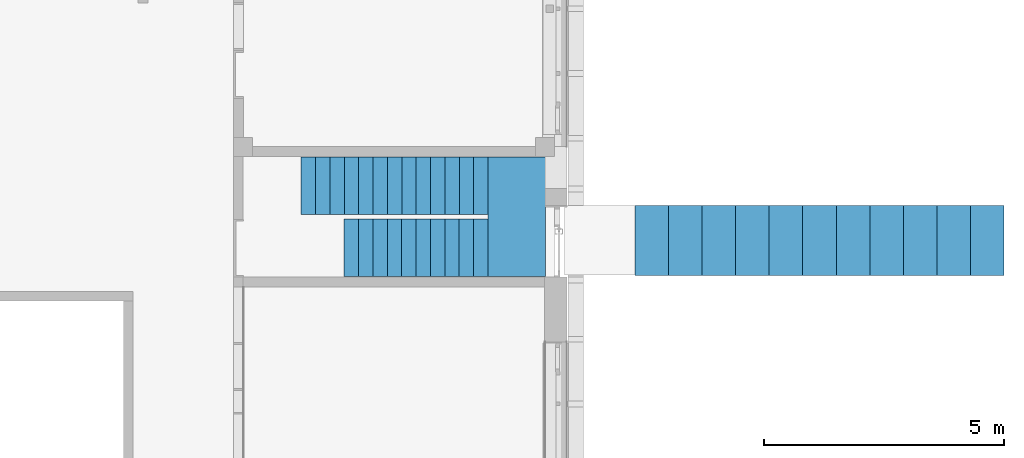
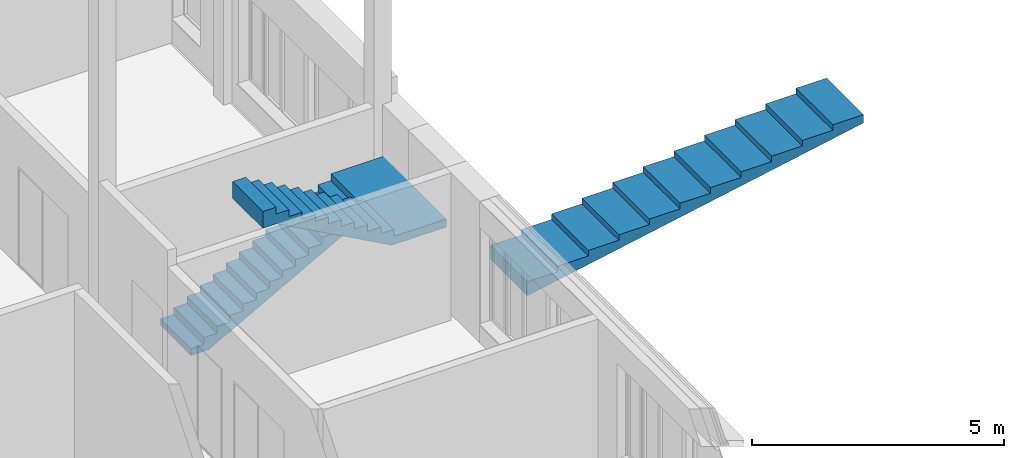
# One storey, part 47 of 89: 2 stairs.
"""IFC2X3 building model written with IfcOpenShell, lengths in millimetres."""

from ifc_helpers import new_model, entity, si_unit, converted_unit, derived_unit, money_unit, direction, frame, origin_with_axes, place, context, subcontext, project, spatial, faceted_brep, material, material_list, element, save


model = new_model("IFC2X3")

# Units and contexts
model_context = context("Model", 3, precision=0.01, world=origin_with_axes(), true_north=direction((0.0, 1.0)))
body_context = subcontext(model_context, "Body", "Model", "MODEL_VIEW")
ifc_project = project(units=[si_unit("LENGTHUNIT", "METRE", prefix="MILLI"), si_unit("AREAUNIT", "SQUARE_METRE"), si_unit("VOLUMEUNIT", "CUBIC_METRE"), converted_unit("PLANEANGLEUNIT", "DEGREE", entity("IfcPlaneAngleMeasure", 0.0174532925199), si_unit("PLANEANGLEUNIT", "RADIAN"), dimensions=[0, 0, 0, 0, 0, 0, 0]), si_unit("SOLIDANGLEUNIT", "STERADIAN"), money_unit("EUR"), converted_unit("TIMEUNIT", "Year", entity("IfcTimeMeasure", 31556926.0), si_unit("TIMEUNIT", "SECOND"), dimensions=[0, 0, 1, 0, 0, 0, 0]), si_unit("MASSUNIT", "GRAM", prefix="KILO"), si_unit("THERMODYNAMICTEMPERATUREUNIT", "DEGREE_CELSIUS"), si_unit("LUMINOUSINTENSITYUNIT", "LUMEN"), si_unit("ENERGYUNIT", "JOULE", prefix="MEGA"), derived_unit("THERMALCONDUCTANCEUNIT", [(si_unit("POWERUNIT", "WATT"), 1), (si_unit("LENGTHUNIT", "METRE"), -1), (si_unit("THERMODYNAMICTEMPERATUREUNIT", "KELVIN"), -1)]), derived_unit("SPECIFICHEATCAPACITYUNIT", [(si_unit("ENERGYUNIT", "JOULE"), 1), (si_unit("MASSUNIT", "GRAM", prefix="KILO"), -1), (si_unit("THERMODYNAMICTEMPERATUREUNIT", "KELVIN"), -1)]), derived_unit("MASSDENSITYUNIT", [(si_unit("MASSUNIT", "GRAM", prefix="KILO"), 1), (si_unit("VOLUMEUNIT", "CUBIC_METRE"), -1)])], contexts=[model_context])

# Site, building, storey
site_placement = place(None, origin_with_axes())
site = spatial("IfcSite", under=ifc_project, at=site_placement, Name="Puškini 31, Narva", CompositionType="ELEMENT")
building_placement = place(site_placement, origin_with_axes())
building = spatial("IfcBuilding", under=site, at=building_placement, Name="Narva Riigigümnaasium", CompositionType="ELEMENT")
storey_placement = place(building_placement, frame((0.0, 0.0, -3300.0), z_axis=(0.0, 0.0, 1.0), x_axis=(1.0, 0.0, 0.0)))
storey = spatial("IfcBuildingStorey", under=building, at=storey_placement, Name="1.korrus -3.3", CompositionType="ELEMENT", Elevation=-3300.0)

# Stairs
ifc_material_1 = material(Name="Betoon element")
ifc_material_list = material_list([ifc_material_1, ifc_material_1, ifc_material_1])
stair_1_placement = place(storey_placement, frame((48910.0000002, 222590.0, 0.0), z_axis=(0.0, 0.0, 1.0), x_axis=(1.0, 0.0, 0.0)))
element("IfcStair", 1, at=stair_1_placement, inside=storey, material=ifc_material_list, Name="G-TR-08", ShapeType="NOTDEFINED", context=body_context, shape_type="Brep", body=[
    faceted_brep([(3899.99998275, -5.17031306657e-07, 2110.0), (3899.99998275, 1200.0, 2110.0), (3899.99999992, 1200.0, 2145.0), (3899.99999992, 0.0, 2145.0), (4251.37133808, -5.17031306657e-07, 2110.0), (4251.37133808, 1200.0, 2110.0), (3899.99998275, 1200.0, 1916.74574635), (3799.99999992, 1200.0, 1861.74575579), (3699.99999993, 1200.0, 1806.74575579), (3599.99999993, 1200.0, 1751.74575579), (3499.99999993, 1200.0, 1696.74575579), (3399.99999993, 1200.0, 1641.74575579), (3299.99999993, 1200.0, 1586.74575579), (3199.99999994, 1200.0, 1531.74575579), (3099.99999994, 1200.0, 1476.74575579), (2999.99999994, 1200.0, 1421.74575579), (2899.99999994, 1200.0, 1366.74575579), (2799.99999994, 1200.0, 1311.74575579), (2699.99999995, 1200.0, 1256.74575579), (2599.99999995, 1200.0, 1201.74575579), (2499.99999995, 1200.0, 1146.74575579), (2399.99999995, 1200.0, 1091.74575579), (2299.99999995, 1200.0, 1036.74575579), (2199.99999996, 1200.0, 981.745755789), (2099.99999996, 1200.0, 926.745755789), (1999.99999996, 1200.0, 871.745755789), (1899.99999996, 1200.0, 816.745755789), (1799.99999996, 1200.0, 761.745755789), (1699.99999997, 1200.0, 706.745755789), (1599.99999997, 1200.0, 651.745755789), (1499.99999997, 1200.0, 596.745755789), (1399.99999997, 1200.0, 541.745755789), (1299.99999997, 1200.0, 486.745755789), (1199.99999998, 1200.0, 431.745755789), (1099.99999998, 1200.0, 376.745755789), (999.99999998, 1200.0, 321.745755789), (899.999999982, 1200.0, 266.745755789), (799.999999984, 1200.0, 211.745755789), (699.999999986, 1200.0, 156.745755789), (599.999999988, 1200.0, 101.745755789), (499.99999999, 1200.0, 46.7457557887), (415.00771674, 1200.0, 0.0), (0.0, 1200.0, 0.0), (0.0, 1200.0, 165.0), (299.999999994, 1200.0, 165.0), (299.999999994, 1200.0, 330.0), (599.999999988, 1200.0, 330.0), (599.999999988, 1200.0, 495.0), (899.999999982, 1200.0, 495.0), (899.999999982, 1200.0, 660.0), (1199.99999998, 1200.0, 660.0), (1199.99999998, 1200.0, 825.0), (1499.99999997, 1200.0, 825.0), (1499.99999997, 1200.0, 990.0), (1799.99999996, 1200.0, 990.0), (1799.99999996, 1200.0, 1155.0), (2099.99999996, 1200.0, 1155.0), (2099.99999996, 1200.0, 1320.0), (2399.99999995, 1200.0, 1320.0), (2399.99999995, 1200.0, 1485.0), (2699.99999995, 1200.0, 1485.0), (2699.99999995, 1200.0, 1650.0), (2999.99999994, 1200.0, 1650.0), (2999.99999994, 1200.0, 1815.0), (3299.99999993, 1200.0, 1815.0), (3299.99999993, 1200.0, 1980.0), (3599.99999993, 1200.0, 1980.0), (3599.99999993, 1200.0, 2145.0), (3599.99999993, 0.0, 2145.0), (3599.99999993, 0.0, 1980.0), (3299.99999993, 0.0, 1980.0), (3299.99999993, 0.0, 1815.0), (2999.99999994, 0.0, 1815.0), (2999.99999994, 0.0, 1650.0), (2699.99999995, 0.0, 1650.0), (2699.99999995, 0.0, 1485.0), (2399.99999995, 0.0, 1485.0), (2399.99999995, 0.0, 1320.0), (2099.99999996, 0.0, 1320.0), (2099.99999996, 0.0, 1155.0), (1799.99999996, 0.0, 1155.0), (1799.99999996, 0.0, 990.0), (1499.99999997, 0.0, 990.0), (1499.99999997, 0.0, 825.0), (1199.99999998, 0.0, 825.0), (1199.99999998, 0.0, 660.0), (899.999999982, 0.0, 660.0), (899.999999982, 0.0, 495.0), (599.999999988, 0.0, 495.0), (599.999999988, 0.0, 330.0), (299.999999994, 0.0, 330.0), (299.999999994, 0.0, 165.0), (0.0, 0.0, 165.0), (0.0, 0.0, 0.0), (415.00771674, 0.0, 0.0), (499.99999999, 0.0, 46.7457557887), (599.999999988, 0.0, 101.745755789), (699.999999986, 0.0, 156.745755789), (799.999999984, 0.0, 211.745755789), (899.999999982, 0.0, 266.745755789), (999.99999998, 0.0, 321.745755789), (1099.99999998, 0.0, 376.745755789), (1199.99999998, 0.0, 431.745755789), (1299.99999997, 0.0, 486.745755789), (1399.99999997, 0.0, 541.745755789), (1499.99999997, 0.0, 596.745755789), (1599.99999997, 0.0, 651.745755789), (1699.99999997, 0.0, 706.745755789), (1799.99999996, 0.0, 761.745755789), (1899.99999996, 0.0, 816.745755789), (1999.99999996, 0.0, 871.745755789), (2099.99999996, 0.0, 926.745755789), (2199.99999996, 0.0, 981.745755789), (2299.99999995, 0.0, 1036.74575579), (2399.99999995, 0.0, 1091.74575579), (2499.99999995, 0.0, 1146.74575579), (2599.99999995, 0.0, 1201.74575579), (2699.99999995, 0.0, 1256.74575579), (2799.99999994, 0.0, 1311.74575579), (2899.99999994, 0.0, 1366.74575579), (2999.99999994, 0.0, 1421.74575579), (3099.99999994, 0.0, 1476.74575579), (3199.99999994, 0.0, 1531.74575579), (3299.99999993, 0.0, 1586.74575579), (3399.99999993, 0.0, 1641.74575579), (3499.99999993, 0.0, 1696.74575579), (3599.99999993, 0.0, 1751.74575579), (3699.99999993, 0.0, 1806.74575579), (3799.99999992, 0.0, 1861.74575579), (3899.99998275, -5.17031306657e-07, 1916.74574635)], [[[0, 1, 2, 3]], [[1, 0, 4, 5]], [[6, 7, 8, 9, 10, 11, 12, 13, 14, 15, 16, 17, 18, 19, 20, 21, 22, 23, 24, 25, 26, 27, 28, 29, 30, 31, 32, 33, 34, 35, 36, 37, 38, 39, 40, 41, 42, 43, 44, 45, 46, 47, 48, 49, 50, 51, 52, 53, 54, 55, 56, 57, 58, 59, 60, 61, 62, 63, 64, 65, 66, 67, 2, 1, 5]], [[68, 3, 2, 67]], [[0, 3, 68, 69, 70, 71, 72, 73, 74, 75, 76, 77, 78, 79, 80, 81, 82, 83, 84, 85, 86, 87, 88, 89, 90, 91, 92, 93, 94, 95, 96, 97, 98, 99, 100, 101, 102, 103, 104, 105, 106, 107, 108, 109, 110, 111, 112, 113, 114, 115, 116, 117, 118, 119, 120, 121, 122, 123, 124, 125, 126, 127, 128, 129, 4]], [[129, 128, 7, 6, 5, 4]], [[127, 8, 7, 128]], [[126, 9, 8, 127]], [[125, 10, 9, 126]], [[124, 11, 10, 125]], [[123, 12, 11, 124]], [[122, 13, 12, 123]], [[121, 14, 13, 122]], [[120, 15, 14, 121]], [[119, 16, 15, 120]], [[118, 17, 16, 119]], [[117, 18, 17, 118]], [[116, 19, 18, 117]], [[115, 20, 19, 116]], [[114, 21, 20, 115]], [[113, 22, 21, 114]], [[112, 23, 22, 113]], [[111, 24, 23, 112]], [[110, 25, 24, 111]], [[109, 26, 25, 110]], [[108, 27, 26, 109]], [[107, 28, 27, 108]], [[106, 29, 28, 107]], [[105, 30, 29, 106]], [[104, 31, 30, 105]], [[103, 32, 31, 104]], [[102, 33, 32, 103]], [[101, 34, 33, 102]], [[100, 35, 34, 101]], [[99, 36, 35, 100]], [[98, 37, 36, 99]], [[97, 38, 37, 98]], [[96, 39, 38, 97]], [[95, 40, 39, 96]], [[94, 41, 40, 95]], [[93, 42, 41, 94]], [[42, 93, 92, 43]], [[43, 92, 91, 44]], [[90, 45, 44, 91]], [[45, 90, 89, 46]], [[88, 47, 46, 89]], [[47, 88, 87, 48]], [[86, 49, 48, 87]], [[49, 86, 85, 50]], [[84, 51, 50, 85]], [[51, 84, 83, 52]], [[82, 53, 52, 83]], [[53, 82, 81, 54]], [[80, 55, 54, 81]], [[55, 80, 79, 56]], [[78, 57, 56, 79]], [[57, 78, 77, 58]], [[76, 59, 58, 77]], [[59, 76, 75, 60]], [[74, 61, 60, 75]], [[61, 74, 73, 62]], [[72, 63, 62, 73]], [[63, 72, 71, 64]], [[70, 65, 64, 71]], [[65, 70, 69, 66]], [[68, 67, 66, 69]]]),
    faceted_brep([(3898.91763588, -100.00000056, 2110.0), (3898.91763588, -1300.00000108, 2110.0), (3898.91763588, -1300.00000108, 2310.0), (3898.91763588, -100.00000056, 2310.0), (3899.99998275, -100.00000056, 2110.0), (3899.99998275, -5.17019316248e-07, 2110.0), (3899.99998275, 1200.0, 2110.0), (5099.99998327, 1200.0, 2110.0), (5099.99998327, -1300.00000108, 2110.0), (5099.99998327, -1300.00000108, 2310.0), (5099.99998327, 1200.0, 2310.0), (3899.99998275, 1200.0, 2310.0), (3899.99998275, -5.17019316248e-07, 2310.0), (3899.99998275, -100.00000056, 2310.0)], [[[0, 1, 2, 3]], [[0, 4, 5, 6, 7, 8, 1]], [[1, 8, 9, 2]], [[3, 2, 9, 10, 11, 12, 13]], [[4, 0, 3, 13]], [[5, 4, 13, 12]], [[6, 5, 12, 11]], [[7, 6, 11, 10]], [[8, 7, 10, 9]]]),
    faceted_brep([(1298.91763593, -1300.00000108, 3511.74575579), (1220.27355555, -1300.00000108, 3555.0), (1220.27355555, -100.000001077, 3555.0), (1298.91763593, -100.000001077, 3511.74575579), (898.917635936, -1300.00000108, 3555.0), (1398.91763593, -1300.00000108, 3456.74575579), (1498.91763592, -1300.00000108, 3401.74575579), (1598.91763592, -1300.00000108, 3346.74575579), (1698.91763592, -1300.00000108, 3291.74575579), (1798.91763592, -1300.00000108, 3236.74575579), (1898.91763592, -1300.00000108, 3181.74575579), (1998.91763591, -1300.00000108, 3126.74575579), (2098.91763591, -1300.00000108, 3071.74575579), (2198.91763591, -1300.00000108, 3016.74575579), (2298.91763591, -1300.00000108, 2961.74575579), (2398.91763591, -1300.00000108, 2906.74575579), (2498.9176359, -1300.00000108, 2851.74575579), (2598.9176359, -1300.00000108, 2796.74575579), (2698.9176359, -1300.00000108, 2741.74575579), (2798.9176359, -1300.00000108, 2686.74575579), (2898.9176359, -1300.00000108, 2631.74575579), (2998.91763589, -1300.00000108, 2576.74575579), (3098.91763589, -1300.00000108, 2521.74575579), (3198.91763589, -1300.00000108, 2466.74575579), (3298.91763589, -1300.00000108, 2411.74575579), (3398.91763589, -1300.00000108, 2356.74575579), (3498.91763588, -1300.00000108, 2301.74575579), (3598.91763588, -1300.00000108, 2246.74575579), (3698.91763588, -1300.00000108, 2191.74575579), (3798.91763588, -1300.00000108, 2136.74575579), (3847.54628277, -1300.00000108, 2110.0), (3898.91763588, -1300.00000108, 2110.0), (3898.91763588, -1300.00000108, 2475.0), (3598.91763588, -1300.00000108, 2475.0), (3598.91763588, -1300.00000108, 2640.0), (3298.91763589, -1300.00000108, 2640.0), (3298.91763589, -1300.00000108, 2805.0), (2998.91763589, -1300.00000108, 2805.0), (2998.91763589, -1300.00000108, 2970.0), (2698.9176359, -1300.00000108, 2970.0), (2698.9176359, -1300.00000108, 3135.0), (2398.91763591, -1300.00000108, 3135.0), (2398.91763591, -1300.00000108, 3300.0), (2098.91763591, -1300.00000108, 3300.0), (2098.91763591, -1300.00000108, 3465.0), (1798.91763592, -1300.00000108, 3465.0), (1798.91763592, -1300.00000108, 3630.0), (1498.91763592, -1300.00000108, 3630.0), (1498.91763592, -1300.00000108, 3795.0), (1198.91763593, -1300.00000108, 3795.0), (1198.91763593, -1300.00000108, 3960.0), (898.917635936, -1300.00000108, 3960.0), (898.917635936, -1300.00000108, 3731.74575579), (898.917635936, -100.000001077, 3555.0), (898.917635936, -100.000001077, 3731.74575579), (898.917635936, -100.000001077, 3960.0), (1198.91763593, -100.000001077, 3960.0), (1198.91763593, -100.000001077, 3795.0), (1498.91763592, -100.000001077, 3795.0), (1498.91763592, -100.000001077, 3630.0), (1798.91763592, -100.000001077, 3630.0), (1798.91763592, -100.000001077, 3465.0), (2098.91763591, -100.000001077, 3465.0), (2098.91763591, -100.000001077, 3300.0), (2398.91763591, -100.000001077, 3300.0), (2398.91763591, -100.000001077, 3135.0), (2698.9176359, -100.000001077, 3135.0), (2698.9176359, -100.000001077, 2970.0), (2998.91763589, -100.000001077, 2970.0), (2998.91763589, -100.000001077, 2805.0), (3298.91763589, -100.000001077, 2805.0), (3298.91763589, -100.000001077, 2640.0), (3598.91763588, -100.000001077, 2640.0), (3598.91763588, -100.000001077, 2475.0), (3898.91763588, -100.000001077, 2475.0), (3898.91763588, -100.000001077, 2110.0), (3847.54628277, -100.000001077, 2110.0), (3798.91763588, -100.000001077, 2136.74575579), (3698.91763588, -100.000001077, 2191.74575579), (3598.91763588, -100.000001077, 2246.74575579), (3498.91763588, -100.000001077, 2301.74575579), (3398.91763589, -100.000001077, 2356.74575579), (3298.91763589, -100.000001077, 2411.74575579), (3198.91763589, -100.000001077, 2466.74575579), (3098.91763589, -100.000001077, 2521.74575579), (2998.91763589, -100.000001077, 2576.74575579), (2898.9176359, -100.000001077, 2631.74575579), (2798.9176359, -100.000001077, 2686.74575579), (2698.9176359, -100.000001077, 2741.74575579), (2598.9176359, -100.000001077, 2796.74575579), (2498.9176359, -100.000001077, 2851.74575579), (2398.91763591, -100.000001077, 2906.74575579), (2298.91763591, -100.000001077, 2961.74575579), (2198.91763591, -100.000001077, 3016.74575579), (2098.91763591, -100.000001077, 3071.74575579), (1998.91763591, -100.000001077, 3126.74575579), (1898.91763592, -100.000001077, 3181.74575579), (1798.91763592, -100.000001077, 3236.74575579), (1698.91763592, -100.000001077, 3291.74575579), (1598.91763592, -100.000001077, 3346.74575579), (1498.91763592, -100.000001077, 3401.74575579), (1398.91763593, -100.000001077, 3456.74575579)], [[[0, 1, 2, 3]], [[4, 1, 0, 5, 6, 7, 8, 9, 10, 11, 12, 13, 14, 15, 16, 17, 18, 19, 20, 21, 22, 23, 24, 25, 26, 27, 28, 29, 30, 31, 32, 33, 34, 35, 36, 37, 38, 39, 40, 41, 42, 43, 44, 45, 46, 47, 48, 49, 50, 51, 52]], [[53, 2, 1, 4]], [[3, 2, 53, 54, 55, 56, 57, 58, 59, 60, 61, 62, 63, 64, 65, 66, 67, 68, 69, 70, 71, 72, 73, 74, 75, 76, 77, 78, 79, 80, 81, 82, 83, 84, 85, 86, 87, 88, 89, 90, 91, 92, 93, 94, 95, 96, 97, 98, 99, 100, 101]], [[101, 5, 0, 3]], [[100, 6, 5, 101]], [[99, 7, 6, 100]], [[98, 8, 7, 99]], [[97, 9, 8, 98]], [[96, 10, 9, 97]], [[95, 11, 10, 96]], [[94, 12, 11, 95]], [[93, 13, 12, 94]], [[92, 14, 13, 93]], [[91, 15, 14, 92]], [[90, 16, 15, 91]], [[89, 17, 16, 90]], [[88, 18, 17, 89]], [[87, 19, 18, 88]], [[86, 20, 19, 87]], [[85, 21, 20, 86]], [[84, 22, 21, 85]], [[83, 23, 22, 84]], [[82, 24, 23, 83]], [[81, 25, 24, 82]], [[80, 26, 25, 81]], [[79, 27, 26, 80]], [[78, 28, 27, 79]], [[77, 29, 28, 78]], [[29, 77, 76, 30]], [[31, 30, 76, 75]], [[74, 32, 31, 75]], [[73, 33, 32, 74]], [[33, 73, 72, 34]], [[71, 35, 34, 72]], [[35, 71, 70, 36]], [[69, 37, 36, 70]], [[37, 69, 68, 38]], [[67, 39, 38, 68]], [[39, 67, 66, 40]], [[65, 41, 40, 66]], [[41, 65, 64, 42]], [[63, 43, 42, 64]], [[43, 63, 62, 44]], [[61, 45, 44, 62]], [[45, 61, 60, 46]], [[59, 47, 46, 60]], [[47, 59, 58, 48]], [[57, 49, 48, 58]], [[49, 57, 56, 50]], [[56, 55, 51, 50]], [[51, 55, 54, 52]], [[53, 4, 52, 54]]]),
])
ifc_material_2 = material(Name="KON-04_Betoon - Konstuktsioon")
stair_2_placement = place(storey_placement, frame((55877.7865744, 221318.992485, -20.4545454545), z_axis=(0.0, 0.0, 1.0), x_axis=(1.0, 0.0, 0.0)))
element("IfcStair", 2, at=stair_2_placement, inside=storey, material=ifc_material_2, Name="G-VTR-02", ShapeType="NOTDEFINED", context=body_context, shape_type="Brep", body=[
    faceted_brep([(7700.0, 0.0, 1490.0), (7700.0, 0.0, 1286.28993515), (7700.0, 1460.0, 1286.28993515), (7700.0, 1460.0, 1490.0), (7500.0, 0.0, 1247.58863645), (7600.0, 0.0, 1266.9392858), (7000.0, 0.0, 1490.0), (7000.0, 0.0, 1354.54545455), (6300.0, 0.0, 1354.54545455), (6300.0, 0.0, 1219.09090909), (5600.0, 0.0, 1219.09090909), (5600.0, 0.0, 1083.63636364), (4900.0, 0.0, 1083.63636364), (4900.0, 0.0, 948.181818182), (4200.0, 0.0, 948.181818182), (4200.0, 0.0, 812.727272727), (3500.0, 0.0, 812.727272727), (3500.0, 0.0, 677.272727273), (2800.0, 0.0, 677.272727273), (2800.0, 0.0, 541.818181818), (2100.0, 0.0, 541.818181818), (2100.0, 0.0, 406.363636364), (1400.0, 0.0, 406.363636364), (1400.0, 0.0, 270.909090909), (700.0, 0.0, 270.909090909), (700.0, 0.0, 135.454545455), (0.0, 0.0, 135.454545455), (0.0, 0.0, -200.0), (19.172818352, 0.0, -200.0), (87.5, 0.0, -186.778246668), (175.0, 0.0, -169.846428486), (262.5, 0.0, -152.914610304), (350.0, 0.0, -135.982792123), (437.5, 0.0, -119.050973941), (525.0, 0.0, -102.119155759), (612.5, 0.0, -85.1873375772), (700.0, 0.0, -68.2555193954), (787.5, 0.0, -51.3237012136), (875.0, 0.0, -34.3918830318), (962.5, 0.0, -17.4600648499), (1050.0, 0.0, -0.528246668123), (1137.5, 0.0, 16.4035715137), (1225.0, 0.0, 33.3353896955), (1312.5, 0.0, 50.2672078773), (1400.0, 0.0, 67.1990260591), (1500.0, 0.0, 86.5496754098), (1600.0, 0.0, 105.90032476), (1700.0, 0.0, 125.250974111), (1800.0, 0.0, 144.601623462), (1900.0, 0.0, 163.952272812), (2000.0, 0.0, 183.302922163), (2100.0, 0.0, 202.653571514), (2187.5, 0.0, 219.585389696), (2275.0, 0.0, 236.517207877), (2362.5, 0.0, 253.449026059), (2450.0, 0.0, 270.380844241), (2537.5, 0.0, 287.312662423), (2625.0, 0.0, 304.244480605), (2712.5, 0.0, 321.176298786), (2800.0, 0.0, 338.108116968), (2887.5, 0.0, 355.03993515), (2975.0, 0.0, 371.971753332), (3062.5, 0.0, 388.903571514), (3150.0, 0.0, 405.835389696), (3237.5, 0.0, 422.767207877), (3325.0, 0.0, 439.699026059), (3412.5, 0.0, 456.630844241), (3500.0, 0.0, 473.562662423), (3600.0, 0.0, 492.913311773), (3700.0, 0.0, 512.263961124), (3800.0, 0.0, 531.614610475), (3900.0, 0.0, 550.965259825), (4000.0, 0.0, 570.315909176), (4100.0, 0.0, 589.666558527), (4200.0, 0.0, 609.017207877), (4287.5, 0.0, 625.949026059), (4375.0, 0.0, 642.880844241), (4462.5, 0.0, 659.812662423), (4550.0, 0.0, 676.744480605), (4637.5, 0.0, 693.676298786), (4725.0, 0.0, 710.608116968), (4812.5, 0.0, 727.53993515), (4900.0, 0.0, 744.471753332), (4987.5, 0.0, 761.403571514), (5075.0, 0.0, 778.335389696), (5162.5, 0.0, 795.267207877), (5250.0, 0.0, 812.199026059), (5337.5, 0.0, 829.130844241), (5425.0, 0.0, 846.062662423), (5512.5, 0.0, 862.994480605), (5600.0, 0.0, 879.926298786), (5687.5, 0.0, 896.858116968), (5775.0, 0.0, 913.78993515), (5862.5, 0.0, 930.721753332), (5950.0, 0.0, 947.653571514), (6037.5, 0.0, 964.585389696), (6125.0, 0.0, 981.517207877), (6212.5, 0.0, 998.449026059), (6300.0, 0.0, 1015.38084424), (6387.5, 0.0, 1032.31266242), (6475.0, 0.0, 1049.2444806), (6562.5, 0.0, 1066.17629879), (6650.0, 0.0, 1083.10811697), (6737.5, 0.0, 1100.03993515), (6825.0, 0.0, 1116.97175333), (6912.5, 0.0, 1133.90357151), (7000.0, 0.0, 1150.8353897), (7100.0, 0.0, 1170.18603905), (7200.0, 0.0, 1189.5366884), (7300.0, 0.0, 1208.88733775), (7400.0, 0.0, 1228.2379871), (7600.0, 1460.0, 1266.9392858), (175.0, 1460.0, -169.846428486), (87.5, 1460.0, -186.778246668), (19.172818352, 1460.0, -200.0), (0.0, 1460.0, -200.0), (0.0, 1460.0, 135.454545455), (700.0, 1460.0, 135.454545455), (700.0, 1460.0, 270.909090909), (1400.0, 1460.0, 270.909090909), (1400.0, 1460.0, 406.363636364), (2100.0, 1460.0, 406.363636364), (2100.0, 1460.0, 541.818181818), (2800.0, 1460.0, 541.818181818), (2800.0, 1460.0, 677.272727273), (3500.0, 1460.0, 677.272727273), (3500.0, 1460.0, 812.727272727), (4200.0, 1460.0, 812.727272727), (4200.0, 1460.0, 948.181818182), (4900.0, 1460.0, 948.181818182), (4900.0, 1460.0, 1083.63636364), (5600.0, 1460.0, 1083.63636364), (5600.0, 1460.0, 1219.09090909), (6300.0, 1460.0, 1219.09090909), (6300.0, 1460.0, 1354.54545455), (7000.0, 1460.0, 1354.54545455), (7000.0, 1460.0, 1490.0), (7500.0, 1460.0, 1247.58863645), (7400.0, 1460.0, 1228.2379871), (7300.0, 1460.0, 1208.88733775), (7200.0, 1460.0, 1189.5366884), (7100.0, 1460.0, 1170.18603905), (7000.0, 1460.0, 1150.8353897), (6912.5, 1460.0, 1133.90357151), (6825.0, 1460.0, 1116.97175333), (6737.5, 1460.0, 1100.03993515), (6650.0, 1460.0, 1083.10811697), (6562.5, 1460.0, 1066.17629879), (6475.0, 1460.0, 1049.2444806), (6387.5, 1460.0, 1032.31266242), (6300.0, 1460.0, 1015.38084424), (6212.5, 1460.0, 998.449026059), (6125.0, 1460.0, 981.517207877), (6037.5, 1460.0, 964.585389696), (5950.0, 1460.0, 947.653571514), (5862.5, 1460.0, 930.721753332), (5775.0, 1460.0, 913.78993515), (5687.5, 1460.0, 896.858116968), (5600.0, 1460.0, 879.926298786), (5512.5, 1460.0, 862.994480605), (5425.0, 1460.0, 846.062662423), (5337.5, 1460.0, 829.130844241), (5250.0, 1460.0, 812.199026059), (5162.5, 1460.0, 795.267207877), (5075.0, 1460.0, 778.335389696), (4987.5, 1460.0, 761.403571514), (4900.0, 1460.0, 744.471753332), (4812.5, 1460.0, 727.53993515), (4725.0, 1460.0, 710.608116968), (4637.5, 1460.0, 693.676298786), (4550.0, 1460.0, 676.744480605), (4462.5, 1460.0, 659.812662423), (4375.0, 1460.0, 642.880844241), (4287.5, 1460.0, 625.949026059), (4200.0, 1460.0, 609.017207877), (4100.0, 1460.0, 589.666558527), (4000.0, 1460.0, 570.315909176), (3900.0, 1460.0, 550.965259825), (3800.0, 1460.0, 531.614610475), (3700.0, 1460.0, 512.263961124), (3600.0, 1460.0, 492.913311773), (3500.0, 1460.0, 473.562662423), (3412.5, 1460.0, 456.630844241), (3325.0, 1460.0, 439.699026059), (3237.5, 1460.0, 422.767207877), (3150.0, 1460.0, 405.835389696), (3062.5, 1460.0, 388.903571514), (2975.0, 1460.0, 371.971753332), (2887.5, 1460.0, 355.03993515), (2800.0, 1460.0, 338.108116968), (2712.5, 1460.0, 321.176298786), (2625.0, 1460.0, 304.244480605), (2537.5, 1460.0, 287.312662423), (2450.0, 1460.0, 270.380844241), (2362.5, 1460.0, 253.449026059), (2275.0, 1460.0, 236.517207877), (2187.5, 1460.0, 219.585389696), (2100.0, 1460.0, 202.653571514), (2000.0, 1460.0, 183.302922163), (1900.0, 1460.0, 163.952272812), (1800.0, 1460.0, 144.601623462), (1700.0, 1460.0, 125.250974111), (1600.0, 1460.0, 105.90032476), (1500.0, 1460.0, 86.5496754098), (1400.0, 1460.0, 67.1990260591), (1312.5, 1460.0, 50.2672078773), (1225.0, 1460.0, 33.3353896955), (1137.5, 1460.0, 16.4035715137), (1050.0, 1460.0, -0.528246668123), (962.5, 1460.0, -17.4600648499), (875.0, 1460.0, -34.3918830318), (787.5, 1460.0, -51.3237012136), (700.0, 1460.0, -68.2555193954), (612.5, 1460.0, -85.1873375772), (525.0, 1460.0, -102.119155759), (437.5, 1460.0, -119.050973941), (350.0, 1460.0, -135.982792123), (262.5, 1460.0, -152.914610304)], [[[0, 1, 2, 3]], [[4, 5, 1, 0, 6, 7, 8, 9, 10, 11, 12, 13, 14, 15, 16, 17, 18, 19, 20, 21, 22, 23, 24, 25, 26, 27, 28, 29, 30, 31, 32, 33, 34, 35, 36, 37, 38, 39, 40, 41, 42, 43, 44, 45, 46, 47, 48, 49, 50, 51, 52, 53, 54, 55, 56, 57, 58, 59, 60, 61, 62, 63, 64, 65, 66, 67, 68, 69, 70, 71, 72, 73, 74, 75, 76, 77, 78, 79, 80, 81, 82, 83, 84, 85, 86, 87, 88, 89, 90, 91, 92, 93, 94, 95, 96, 97, 98, 99, 100, 101, 102, 103, 104, 105, 106, 107, 108, 109, 110]], [[111, 2, 1, 5]], [[112, 113, 114, 115, 116, 117, 118, 119, 120, 121, 122, 123, 124, 125, 126, 127, 128, 129, 130, 131, 132, 133, 134, 135, 136, 3, 2, 111, 137, 138, 139, 140, 141, 142, 143, 144, 145, 146, 147, 148, 149, 150, 151, 152, 153, 154, 155, 156, 157, 158, 159, 160, 161, 162, 163, 164, 165, 166, 167, 168, 169, 170, 171, 172, 173, 174, 175, 176, 177, 178, 179, 180, 181, 182, 183, 184, 185, 186, 187, 188, 189, 190, 191, 192, 193, 194, 195, 196, 197, 198, 199, 200, 201, 202, 203, 204, 205, 206, 207, 208, 209, 210, 211, 212, 213, 214, 215, 216, 217]], [[6, 0, 3, 136]], [[4, 137, 111, 5]], [[6, 136, 135, 7]], [[134, 8, 7, 135]], [[8, 134, 133, 9]], [[132, 10, 9, 133]], [[10, 132, 131, 11]], [[130, 12, 11, 131]], [[12, 130, 129, 13]], [[128, 14, 13, 129]], [[14, 128, 127, 15]], [[126, 16, 15, 127]], [[16, 126, 125, 17]], [[124, 18, 17, 125]], [[18, 124, 123, 19]], [[122, 20, 19, 123]], [[20, 122, 121, 21]], [[120, 22, 21, 121]], [[22, 120, 119, 23]], [[118, 24, 23, 119]], [[24, 118, 117, 25]], [[116, 26, 25, 117]], [[115, 27, 26, 116]], [[27, 115, 114, 28]], [[28, 114, 113, 29]], [[29, 113, 112, 30]], [[30, 112, 217, 31]], [[31, 217, 216, 32]], [[32, 216, 215, 33]], [[33, 215, 214, 34]], [[34, 214, 213, 35]], [[35, 213, 212, 36]], [[36, 212, 211, 37]], [[37, 211, 210, 38]], [[38, 210, 209, 39]], [[39, 209, 208, 40]], [[40, 208, 207, 41]], [[41, 207, 206, 42]], [[42, 206, 205, 43]], [[43, 205, 204, 44]], [[44, 204, 203, 45]], [[45, 203, 202, 46]], [[46, 202, 201, 47]], [[47, 201, 200, 48]], [[48, 200, 199, 49]], [[49, 199, 198, 50]], [[50, 198, 197, 51]], [[51, 197, 196, 52]], [[52, 196, 195, 53]], [[53, 195, 194, 54]], [[54, 194, 193, 55]], [[55, 193, 192, 56]], [[56, 192, 191, 57]], [[57, 191, 190, 58]], [[58, 190, 189, 59]], [[59, 189, 188, 60]], [[60, 188, 187, 61]], [[61, 187, 186, 62]], [[62, 186, 185, 63]], [[63, 185, 184, 64]], [[64, 184, 183, 65]], [[65, 183, 182, 66]], [[66, 182, 181, 67]], [[67, 181, 180, 68]], [[68, 180, 179, 69]], [[69, 179, 178, 70]], [[70, 178, 177, 71]], [[71, 177, 176, 72]], [[72, 176, 175, 73]], [[73, 175, 174, 74]], [[74, 174, 173, 75]], [[75, 173, 172, 76]], [[76, 172, 171, 77]], [[77, 171, 170, 78]], [[78, 170, 169, 79]], [[79, 169, 168, 80]], [[80, 168, 167, 81]], [[81, 167, 166, 82]], [[82, 166, 165, 83]], [[83, 165, 164, 84]], [[84, 164, 163, 85]], [[85, 163, 162, 86]], [[86, 162, 161, 87]], [[87, 161, 160, 88]], [[88, 160, 159, 89]], [[89, 159, 158, 90]], [[90, 158, 157, 91]], [[91, 157, 156, 92]], [[92, 156, 155, 93]], [[93, 155, 154, 94]], [[94, 154, 153, 95]], [[95, 153, 152, 96]], [[96, 152, 151, 97]], [[97, 151, 150, 98]], [[98, 150, 149, 99]], [[99, 149, 148, 100]], [[100, 148, 147, 101]], [[101, 147, 146, 102]], [[102, 146, 145, 103]], [[103, 145, 144, 104]], [[104, 144, 143, 105]], [[105, 143, 142, 106]], [[106, 142, 141, 107]], [[107, 141, 140, 108]], [[108, 140, 139, 109]], [[109, 139, 138, 110]], [[110, 138, 137, 4]]]),
])

save(model, "model.ifc")
